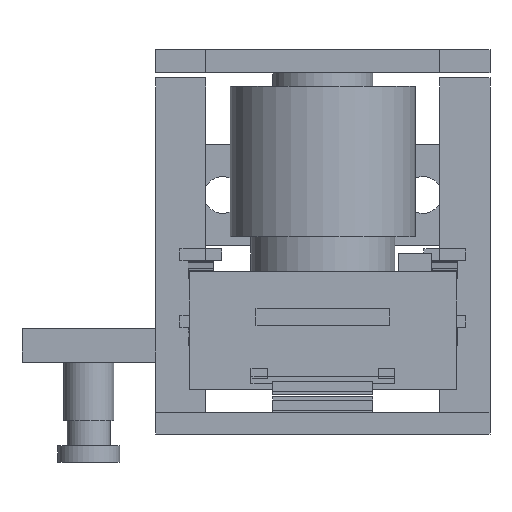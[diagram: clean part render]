
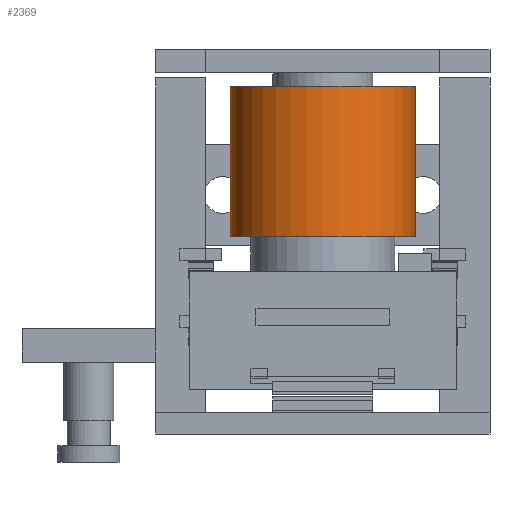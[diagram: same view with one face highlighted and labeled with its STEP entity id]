
A CAD part, left-side view. The second image highlights one B-rep face of the part: STEP entity #2369.
In plain terms, the highlighted cylindrical face has radius 5.55 mm (diameter 11.1 mm), a full revolution.
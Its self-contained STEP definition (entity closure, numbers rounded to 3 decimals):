
#2369 = ADVANCED_FACE('',(#2370),#2383,.T.);
#2370 = FACE_BOUND('',#2371,.T.);
#2371 = EDGE_LOOP('',(#2372,#2406,#2429,#2456));
#2372 = ORIENTED_EDGE('',*,*,#2373,.F.);
#2373 = EDGE_CURVE('',#2374,#2374,#2376,.T.);
#2374 = VERTEX_POINT('',#2375);
#2375 = CARTESIAN_POINT('',(31.55,0.,18.5));
#2376 = SURFACE_CURVE('',#2377,(#2382,#2394),.PCURVE_S1.);
#2377 = CIRCLE('',#2378,5.55);
#2378 = AXIS2_PLACEMENT_3D('',#2379,#2380,#2381);
#2379 = CARTESIAN_POINT('',(26.,0.,18.5));
#2380 = DIRECTION('',(0.,0.,1.));
#2381 = DIRECTION('',(1.,0.,-0.));
#2382 = PCURVE('',#2383,#2388);
#2383 = CYLINDRICAL_SURFACE('',#2384,5.55);
#2384 = AXIS2_PLACEMENT_3D('',#2385,#2386,#2387);
#2385 = CARTESIAN_POINT('',(26.,0.,9.5));
#2386 = DIRECTION('',(0.,0.,1.));
#2387 = DIRECTION('',(1.,0.,-0.));
#2388 = DEFINITIONAL_REPRESENTATION('',(#2389),#2393);
#2389 = LINE('',#2390,#2391);
#2390 = CARTESIAN_POINT('',(0.,9.));
#2391 = VECTOR('',#2392,1.);
#2392 = DIRECTION('',(1.,0.));
#2393 = ( GEOMETRIC_REPRESENTATION_CONTEXT(2) 
PARAMETRIC_REPRESENTATION_CONTEXT() REPRESENTATION_CONTEXT('2D SPACE',''
  ) );
#2394 = PCURVE('',#2395,#2400);
#2395 = PLANE('',#2396);
#2396 = AXIS2_PLACEMENT_3D('',#2397,#2398,#2399);
#2397 = CARTESIAN_POINT('',(26.,0.,18.5));
#2398 = DIRECTION('',(0.,0.,1.));
#2399 = DIRECTION('',(1.,0.,-0.));
#2400 = DEFINITIONAL_REPRESENTATION('',(#2401),#2405);
#2401 = CIRCLE('',#2402,5.55);
#2402 = AXIS2_PLACEMENT_2D('',#2403,#2404);
#2403 = CARTESIAN_POINT('',(0.,0.));
#2404 = DIRECTION('',(1.,0.));
#2405 = ( GEOMETRIC_REPRESENTATION_CONTEXT(2) 
PARAMETRIC_REPRESENTATION_CONTEXT() REPRESENTATION_CONTEXT('2D SPACE',''
  ) );
#2406 = ORIENTED_EDGE('',*,*,#2407,.F.);
#2407 = EDGE_CURVE('',#2408,#2374,#2410,.T.);
#2408 = VERTEX_POINT('',#2409);
#2409 = CARTESIAN_POINT('',(31.55,0.,9.5));
#2410 = SEAM_CURVE('',#2411,(#2415,#2422),.PCURVE_S1.);
#2411 = LINE('',#2412,#2413);
#2412 = CARTESIAN_POINT('',(31.55,0.,9.5));
#2413 = VECTOR('',#2414,1.);
#2414 = DIRECTION('',(0.,0.,1.));
#2415 = PCURVE('',#2383,#2416);
#2416 = DEFINITIONAL_REPRESENTATION('',(#2417),#2421);
#2417 = LINE('',#2418,#2419);
#2418 = CARTESIAN_POINT('',(6.283,-0.));
#2419 = VECTOR('',#2420,1.);
#2420 = DIRECTION('',(0.,1.));
#2421 = ( GEOMETRIC_REPRESENTATION_CONTEXT(2) 
PARAMETRIC_REPRESENTATION_CONTEXT() REPRESENTATION_CONTEXT('2D SPACE',''
  ) );
#2422 = PCURVE('',#2383,#2423);
#2423 = DEFINITIONAL_REPRESENTATION('',(#2424),#2428);
#2424 = LINE('',#2425,#2426);
#2425 = CARTESIAN_POINT('',(0.,-0.));
#2426 = VECTOR('',#2427,1.);
#2427 = DIRECTION('',(0.,1.));
#2428 = ( GEOMETRIC_REPRESENTATION_CONTEXT(2) 
PARAMETRIC_REPRESENTATION_CONTEXT() REPRESENTATION_CONTEXT('2D SPACE',''
  ) );
#2429 = ORIENTED_EDGE('',*,*,#2430,.T.);
#2430 = EDGE_CURVE('',#2408,#2408,#2431,.T.);
#2431 = SURFACE_CURVE('',#2432,(#2437,#2444),.PCURVE_S1.);
#2432 = CIRCLE('',#2433,5.55);
#2433 = AXIS2_PLACEMENT_3D('',#2434,#2435,#2436);
#2434 = CARTESIAN_POINT('',(26.,0.,9.5));
#2435 = DIRECTION('',(0.,0.,1.));
#2436 = DIRECTION('',(1.,0.,-0.));
#2437 = PCURVE('',#2383,#2438);
#2438 = DEFINITIONAL_REPRESENTATION('',(#2439),#2443);
#2439 = LINE('',#2440,#2441);
#2440 = CARTESIAN_POINT('',(0.,0.));
#2441 = VECTOR('',#2442,1.);
#2442 = DIRECTION('',(1.,0.));
#2443 = ( GEOMETRIC_REPRESENTATION_CONTEXT(2) 
PARAMETRIC_REPRESENTATION_CONTEXT() REPRESENTATION_CONTEXT('2D SPACE',''
  ) );
#2444 = PCURVE('',#2445,#2450);
#2445 = PLANE('',#2446);
#2446 = AXIS2_PLACEMENT_3D('',#2447,#2448,#2449);
#2447 = CARTESIAN_POINT('',(26.,0.,9.5));
#2448 = DIRECTION('',(0.,0.,1.));
#2449 = DIRECTION('',(1.,0.,-0.));
#2450 = DEFINITIONAL_REPRESENTATION('',(#2451),#2455);
#2451 = CIRCLE('',#2452,5.55);
#2452 = AXIS2_PLACEMENT_2D('',#2453,#2454);
#2453 = CARTESIAN_POINT('',(0.,0.));
#2454 = DIRECTION('',(1.,0.));
#2455 = ( GEOMETRIC_REPRESENTATION_CONTEXT(2) 
PARAMETRIC_REPRESENTATION_CONTEXT() REPRESENTATION_CONTEXT('2D SPACE',''
  ) );
#2456 = ORIENTED_EDGE('',*,*,#2407,.T.);
